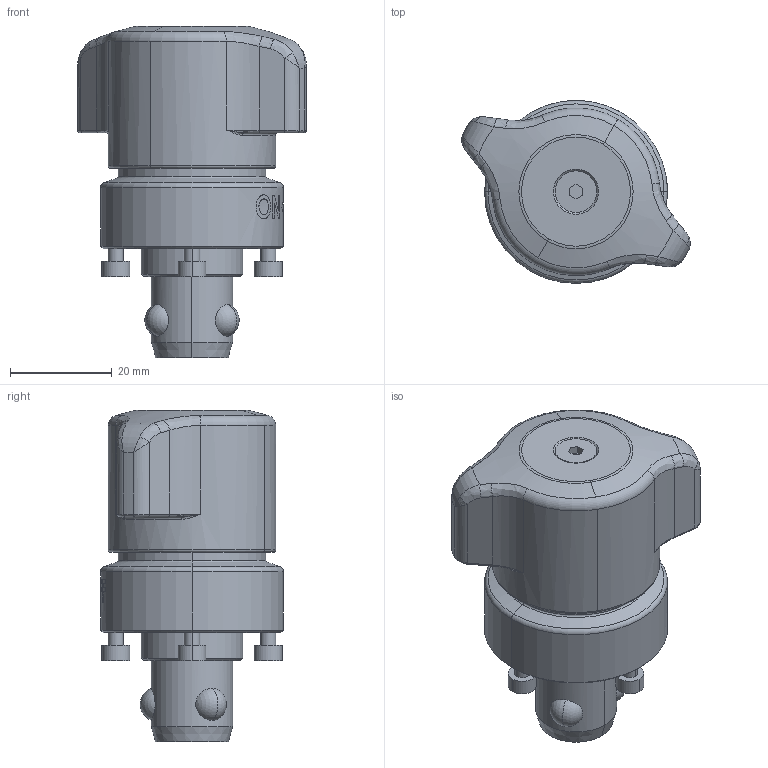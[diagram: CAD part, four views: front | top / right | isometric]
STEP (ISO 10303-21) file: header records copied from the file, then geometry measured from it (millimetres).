
FILE_DESCRIPTION (( 'STEP AP203' ), '1' );
FILE_NAME ('QCWESA1636-20S.STEP', '2024-03-06T02:11:03', ( '' ), ( '' ), 'SwSTEP 2.0', 'SolidWorks 2022', '' );
FILE_SCHEMA (( 'CONFIG_CONTROL_DESIGN' ));
Length unit declared in the file: millimetre
Products named in the file (7): QCWESA1636-20S_03_ﾃﾞﾌｫﾙﾄ; QCWESA1636-20S_01_ﾃﾞﾌｫﾙﾄ; QCWESA1636-20S_04_ﾃﾞﾌｫﾙﾄ; QCWESA1636-20S_06_ﾃﾞﾌｫﾙﾄ; QCWESA1636-20S; QCWESA1636-20S_05_ﾃﾞﾌｫﾙﾄ; QCWESA1636-20S_02_ﾃﾞﾌｫﾙﾄ
Assembly tree (6 placements, depth 2):
  QCWESA1636-20S
    QCWESA1636-20S_01_ﾃﾞﾌｫﾙﾄ
    QCWESA1636-20S_02_ﾃﾞﾌｫﾙﾄ
    QCWESA1636-20S_03_ﾃﾞﾌｫﾙﾄ
    QCWESA1636-20S_04_ﾃﾞﾌｫﾙﾄ
    QCWESA1636-20S_05_ﾃﾞﾌｫﾙﾄ
    QCWESA1636-20S_06_ﾃﾞﾌｫﾙﾄ
Bounding box: 45 x 36 x 65.33 mm (x, y, z)
Volume: 43468.5 mm3; surface area: 21502.2 mm2
Topology: 6 solids, 6 shells, 279 faces, 639 edges, 398 vertices
Faces by surface type: plane 110, cylinder 78, bspline 44, torus 27, cone 14, sphere 6
Entity records: 12742 total; most frequent: CARTESIAN_POINT 5919, ORIENTED_EDGE 1262, DIRECTION 1247, EDGE_CURVE 631, AXIS2_PLACEMENT_3D 494, VERTEX_POINT 398, EDGE_LOOP 315, FACE_OUTER_BOUND 279
